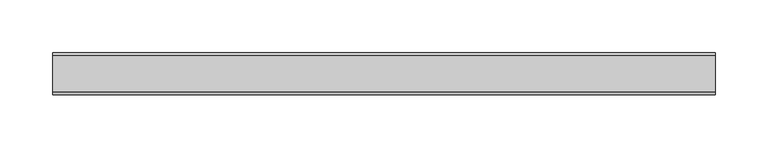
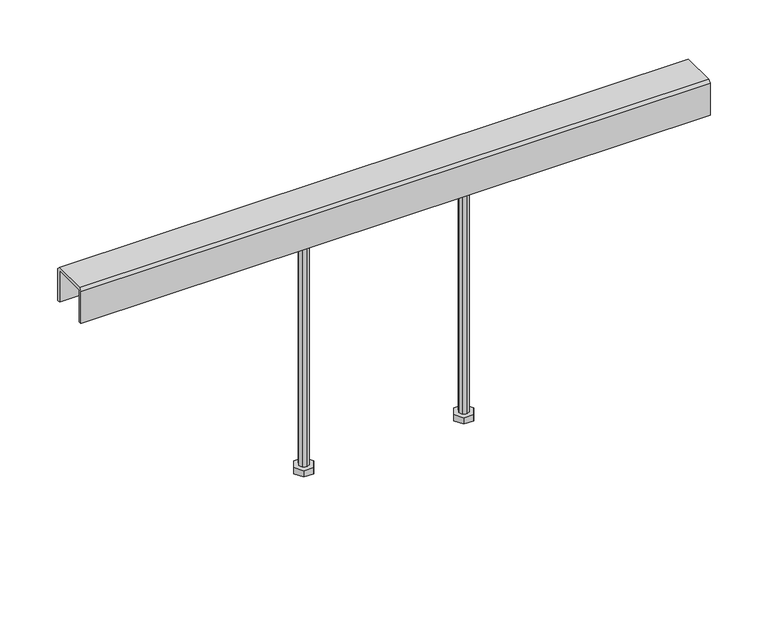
"""IFC4 building model written with IfcOpenShell, lengths in millimetres: proxy geometry, Beared-Hanger : BearedHanger."""

from ifc_helpers import new_model, si_unit, frame, origin, place, context, project, spatial, polyline, outline, extrude, source, transform, mapped, element, save


def mechanical_equipment_90a53e65(model_context):
    return source(origin(), model_context, "Body", "SweptSolid", [
        extrude(outline(polyline([(64.910673, -17.3962402), (64.910673, 16.7883301), (94.7275675, 16.7883301), (94.7275675, -17.3962402), (64.910673, -17.3962402)])), frame((0.0, 0.0, -636.4001991), z_axis=(0.0, 0.0, 1.0), x_axis=(1.0, 0.0, 0.0)), (0.0, 0.0, 1.0), 10.0),
        extrude(outline(polyline([(69.8191202, 0.0), (74.8191202, 8.659668), (84.8191202, 8.659668), (89.8191202, 0.0), (84.8191202, -8.659668), (74.8191202, -8.659668), (69.8191202, 0.0)])), frame((0.0, 0.0, -885.9847938), z_axis=(0.0, 0.0, 1.0), x_axis=(1.0, 0.0, 0.0)), (0.0, 0.0, 1.0), 6.6101074),
        extrude(outline(polyline([(79.8191202, 5.0), (83.3542765, 3.5351562), (84.8191202, 0.0), (83.3542765, -3.5351563), (79.8191202, -5.0), (76.283964, -3.5351563), (74.8185099, 0.0), (76.283964, 3.5351562), (79.8191202, 5.0)])), frame((0.0, 0.0, -879.3746864), z_axis=(0.0, 0.0, 1.0), x_axis=(1.0, 0.0, 0.0)), (0.0, 0.0, 1.0), 242.9744873),
        extrude(outline(polyline([(-89.8191202, 0.0), (-84.8191202, 8.659668), (-74.8191202, 8.659668), (-69.8191202, 0.0), (-74.8191202, -8.659668), (-84.8191202, -8.659668), (-89.8191202, 0.0)])), frame((0.0, 0.0, -885.9847938), z_axis=(0.0, 0.0, 1.0), x_axis=(1.0, 0.0, 0.0)), (0.0, 0.0, 1.0), 6.6101074),
        extrude(outline(polyline([(-64.910673, 16.7883301), (-64.910673, -17.3962402), (-94.7275675, -17.3962402), (-94.7275675, 16.7883301), (-64.910673, 16.7883301)])), frame((0.0, 0.0, -636.4001991), z_axis=(0.0, 0.0, 1.0), x_axis=(1.0, 0.0, 0.0)), (0.0, 0.0, 1.0), 10.0),
        extrude(outline(polyline([(-79.8191202, 5.0), (-76.283964, 3.5351562), (-74.8191202, 0.0), (-76.283964, -3.5351563), (-79.8191202, -5.0), (-83.3542765, -3.5351563), (-84.8197306, 0.0), (-83.3542765, 3.5351562), (-79.8191202, 5.0)])), frame((0.0, 0.0, -879.3746864), z_axis=(0.0, 0.0, 1.0), x_axis=(1.0, 0.0, 0.0)), (0.0, 0.0, 1.0), 242.9744873),
        extrude(outline(polyline([(-17.8259277, -599.9847938), (17.1740723, -599.9847938), (19.6740723, -602.4844886), (19.6740723, -636.4001991), (16.7883301, -636.4001991), (16.7883301, -602.9846717), (-17.3962402, -602.9846717), (-17.3962402, -636.4001991), (-20.3259277, -636.4001991), (-20.3259277, -602.4844886), (-17.8259277, -599.9847938)])), frame((-314.0247374, 0.0, 0.0), z_axis=(1.0, 0.0, 0.0), x_axis=(0.0, 1.0, 0.0)), (0.0, 0.0, 1.0), 628.0494747),
    ])


if __name__ == "__main__":
    model = new_model("IFC4")
    model_context = context("Model", 3, world=origin())
    ifc_project = project(units=[si_unit("LENGTHUNIT", "METRE", prefix="MILLI")], contexts=[model_context])
    site = spatial("IfcSite", under=ifc_project)
    building = spatial("IfcBuilding", under=site)
    placement = place(None, origin())
    mechanical_equipment_shape = mechanical_equipment_90a53e65(model_context)
    element("IfcBuildingElementProxy", 1, Name="Beared-Hanger : BearedHanger", ObjectType="Beared-Hanger : BearedHanger", at=placement, inside=building, context=model_context, shape_type="MappedRepresentation", body=[
        mapped(mechanical_equipment_shape, transform((0.0, 0.0, 0.0), x_axis=(1.0, 0.0, 0.0), y_axis=(0.0, 1.0, 0.0), z_axis=(0.0, 0.0, 1.0))),
    ])
    save(model, "model.ifc")
